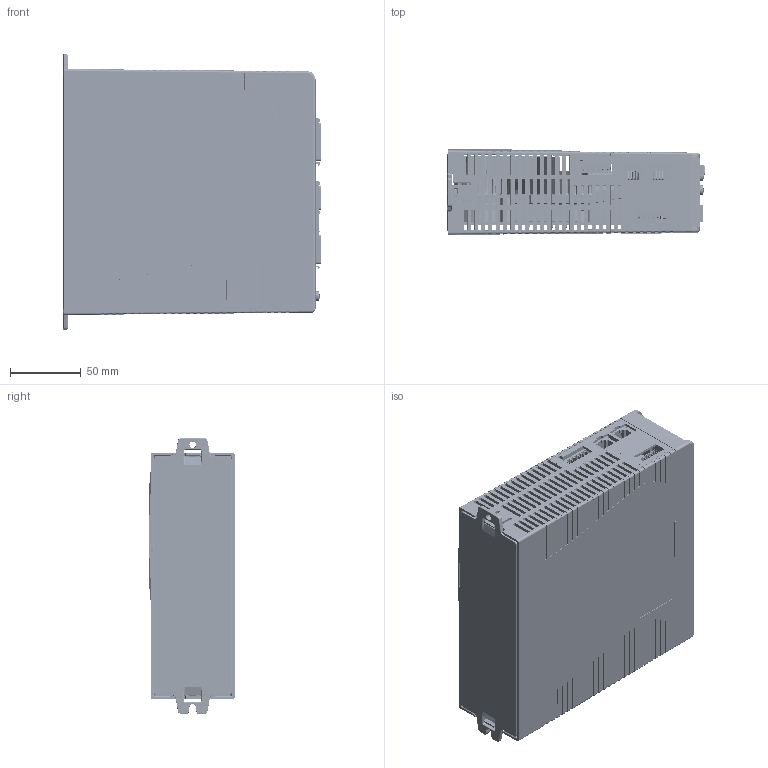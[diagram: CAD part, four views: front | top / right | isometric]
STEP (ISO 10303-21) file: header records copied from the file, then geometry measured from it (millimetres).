
FILE_DESCRIPTION (( 'STEP AP214' ), '1' );
FILE_NAME ('2S-13A.STEP', '2024-10-16T06:30:28', ( '' ), ( '' ), 'SwSTEP 2.0', 'SolidWorks 2020', '' );
FILE_SCHEMA (( 'AUTOMOTIVE_DESIGN' ));
Length unit declared in the file: millimetre
Products named in the file (16): power-pcba-asm; 2S-13A; SCRr000000M4-11; lexrcd2smv013-tp; hskrcd2smv013-00-draft1; SCRr000000M3-44_SEMS SCR  M3x6mm WITH INT TOOTH LOCK WASHER ZINC; prdr9hcsaf1z-control; 9EDGRC-7.5-07P-1Y-100Z(H); SCRr000000M4-02; 15EDGRN-3.5-04P-14-00A(H); MECrCD2SMV013-00-241011; lexrcd2smv013-sd; Power Board 2S-13A; RX27-5B 10W 萇郯ん; 9EDGRC-7.5-04P-1Y-100Z(H); fanr7015-00
Assembly tree (17 placements, depth 3):
  2S-13A
    Power Board 2S-13A
      power-pcba-asm
      9EDGRC-7.5-04P-1Y-100Z(H)
      9EDGRC-7.5-07P-1Y-100Z(H)
      RX27-5B 10W 萇郯ん
      15EDGRN-3.5-04P-14-00A(H)
    prdr9hcsaf1z-control
    fanr7015-00
    lexrcd2smv013-tp
    lexrcd2smv013-sd
    SCRr000000M4-02  x2
    SCRr000000M3-44_SEMS SCR  M3x6mm WITH INT TOOTH LOCK WASHER ZINC
    SCRr000000M4-11  x2
    MECrCD2SMV013-00-241011
    hskrcd2smv013-00-draft1
Bounding box: 181.08 x 60.4 x 194.3 mm (x, y, z)
Volume: 498356.6 mm3; surface area: 484534.8 mm2
Topology: 53 solids, 138 shells, 22068 faces, 59191 edges, 38021 vertices
Faces by surface type: plane 13241, cylinder 5199, bspline 2758, cone 459, torus 377, sphere 34
Entity records: 961586 total; most frequent: CARTESIAN_POINT 306018, ORIENTED_EDGE 117052, DIRECTION 92524, EDGE_CURVE 58527, VERTEX_POINT 37787, LINE 36602, VECTOR 36602, AXIS2_PLACEMENT_3D 27961
